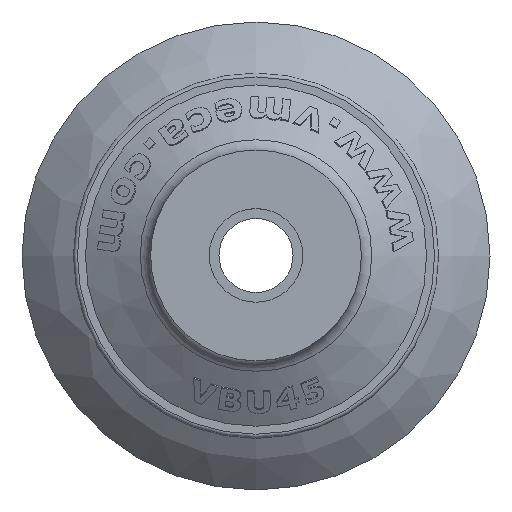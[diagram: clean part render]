
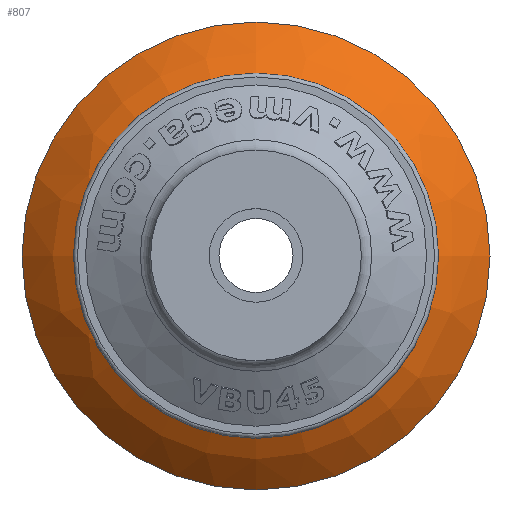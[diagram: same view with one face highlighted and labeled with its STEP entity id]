
A CAD part, top view. The second image highlights one B-rep face of the part: STEP entity #807.
In plain terms, the highlighted free-form (B-spline) face has degree [3, 3] with [4, 7] control points.
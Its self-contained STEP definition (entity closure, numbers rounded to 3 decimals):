
#807 = ADVANCED_FACE( '', ( #1744, #1745 ), #1746, .T. );
#1744 = FACE_OUTER_BOUND( '', #9021, .T. );
#1745 = FACE_OUTER_BOUND( '', #9022, .T. );
#1746 = ( BOUNDED_SURFACE(  )B_SPLINE_SURFACE( 3, 3, ( ( #9025, #9026, #9027, #9028, #9029, #9030, #9031 ), ( #9032, #9033, #9034, #9035, #9036, #9037, #9038 ), ( #9039, #9040, #9041, #9042, #9043, #9044, #9045 ), ( #9046, #9047, #9048, #9049, #9050, #9051, #9052 ) ), .UNSPECIFIED., .F., .T., .F. )B_SPLINE_SURFACE_WITH_KNOTS( ( 4, 4 ), ( 4, 3, 4 ), ( 0., 6.283 ), ( 0.717, 1.004, 1.291 ), .UNSPECIFIED. )GEOMETRIC_REPRESENTATION_ITEM(  )RATIONAL_B_SPLINE_SURFACE( ( ( 1., 0.333, 0.333, 1., 0.333, 0.333, 1. ), ( 0.973, 0.324, 0.324, 0.973, 0.324, 0.324, 0.973 ), ( 0.973, 0.324, 0.324, 0.973, 0.324, 0.324, 0.973 ), ( 1., 0.333, 0.333, 1., 0.333, 0.333, 1. ) ) )REPRESENTATION_ITEM( '' )SURFACE(  ) );
#9021 = EDGE_LOOP( '', ( #12903 ) );
#9022 = EDGE_LOOP( '', ( #12904 ) );
#9025 = CARTESIAN_POINT( '', ( 12.452, 0., -9.198 ) );
#9026 = CARTESIAN_POINT( '', ( 12.452, 24.904, -9.198 ) );
#9027 = CARTESIAN_POINT( '', ( -12.452, 24.904, -9.198 ) );
#9028 = CARTESIAN_POINT( '', ( -12.452, 0., -9.198 ) );
#9029 = CARTESIAN_POINT( '', ( -12.452, -24.904, -9.198 ) );
#9030 = CARTESIAN_POINT( '', ( 12.452, -24.904, -9.198 ) );
#9031 = CARTESIAN_POINT( '', ( 12.452, 0., -9.198 ) );
#9032 = CARTESIAN_POINT( '', ( 16.472, 0., -10.353 ) );
#9033 = CARTESIAN_POINT( '', ( 16.472, 32.943, -10.353 ) );
#9034 = CARTESIAN_POINT( '', ( -16.472, 32.943, -10.353 ) );
#9035 = CARTESIAN_POINT( '', ( -16.472, 0., -10.353 ) );
#9036 = CARTESIAN_POINT( '', ( -16.472, -32.943, -10.353 ) );
#9037 = CARTESIAN_POINT( '', ( 16.472, -32.943, -10.353 ) );
#9038 = CARTESIAN_POINT( '', ( 16.472, 0., -10.353 ) );
#9039 = CARTESIAN_POINT( '', ( 20., 0., -12.598 ) );
#9040 = CARTESIAN_POINT( '', ( 20., 40.001, -12.598 ) );
#9041 = CARTESIAN_POINT( '', ( -20., 40.001, -12.598 ) );
#9042 = CARTESIAN_POINT( '', ( -20., 0., -12.598 ) );
#9043 = CARTESIAN_POINT( '', ( -20., -40.001, -12.598 ) );
#9044 = CARTESIAN_POINT( '', ( 20., -40.001, -12.598 ) );
#9045 = CARTESIAN_POINT( '', ( 20., 0., -12.598 ) );
#9046 = CARTESIAN_POINT( '', ( 22.75, 0., -15.749 ) );
#9047 = CARTESIAN_POINT( '', ( 22.75, 45.5, -15.749 ) );
#9048 = CARTESIAN_POINT( '', ( -22.75, 45.5, -15.749 ) );
#9049 = CARTESIAN_POINT( '', ( -22.75, 0., -15.749 ) );
#9050 = CARTESIAN_POINT( '', ( -22.75, -45.5, -15.749 ) );
#9051 = CARTESIAN_POINT( '', ( 22.75, -45.5, -15.749 ) );
#9052 = CARTESIAN_POINT( '', ( 22.75, 0., -15.749 ) );
#12903 = ORIENTED_EDGE( '', *, *, #14410, .T. );
#12904 = ORIENTED_EDGE( '', *, *, #14586, .F. );
#14410 = EDGE_CURVE( '', #15997, #15997, #15998, .T. );
#14586 = EDGE_CURVE( '', #16227, #16227, #16228, .T. );
#15997 = VERTEX_POINT( '', #21657 );
#15998 = CIRCLE( '', #21658, 22.75 );
#16227 = VERTEX_POINT( '', #22498 );
#16228 = CIRCLE( '', #22499, 12.452 );
#21657 = CARTESIAN_POINT( '', ( 22.75, 0., -15.749 ) );
#21658 = AXIS2_PLACEMENT_3D( '', #23788, #23789, #23790 );
#22498 = CARTESIAN_POINT( '', ( 12.452, 0., -9.198 ) );
#22499 = AXIS2_PLACEMENT_3D( '', #23862, #23863, #23864 );
#23788 = CARTESIAN_POINT( '', ( 0., 0., -15.749 ) );
#23789 = DIRECTION( '', ( 0., 0., 1. ) );
#23790 = DIRECTION( '', ( 1., 0., 0. ) );
#23862 = CARTESIAN_POINT( '', ( 0., 0., -9.198 ) );
#23863 = DIRECTION( '', ( 0., 0., 1. ) );
#23864 = DIRECTION( '', ( 1., 0., 0. ) );
